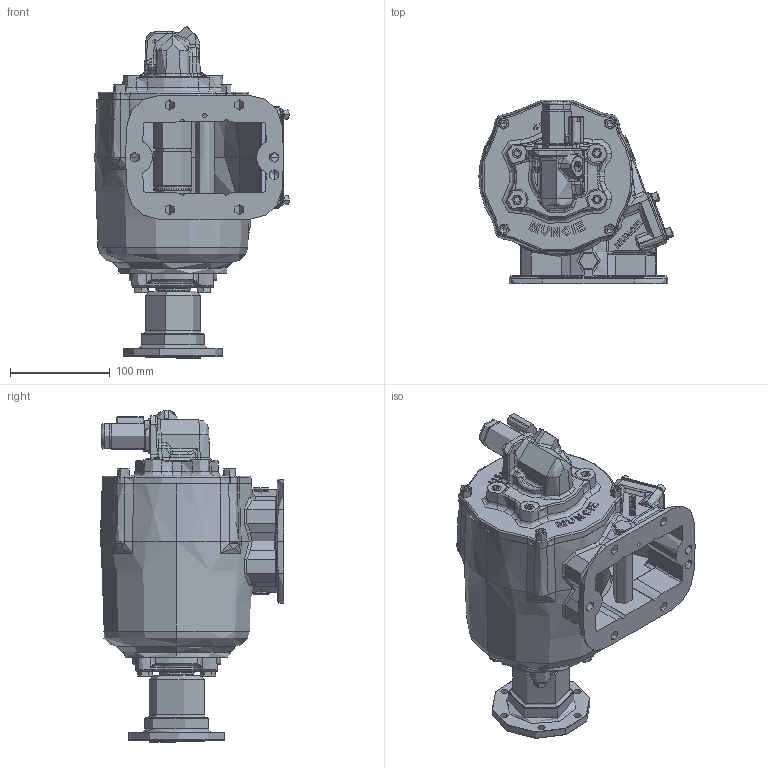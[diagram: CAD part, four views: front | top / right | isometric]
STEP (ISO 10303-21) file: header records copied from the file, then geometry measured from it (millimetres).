
FILE_DESCRIPTION (( 'STEP AP203' ), '1' );
FILE_NAME ('CS6S-XXXXX-S12X.STEP', '2023-05-25T17:36:25', ( '' ), ( '' ), 'SwSTEP 2.0', 'SolidWorks 2021', '' );
FILE_SCHEMA (( 'CONFIG_CONTROL_DESIGN' ));
Length unit declared in the file: inch
Products named in the file (17): 19T35237; 15T41683; 16T41119; 01t37073a; 15T41597; 19T38266; 15TA5220_Config1; 07T37071; 25T21684-1; 06T37372_06T37372; 35T40860a; 14T37378; 19T41756; 19T41118; CS6S-XXXXX-S12X; 19T40859; 21T20092
Assembly tree (30 placements, depth 3):
  CS6S-XXXXX-S12X
    01t37073a
    16T41119
    19T41118  x4
    19T35237  x4
    15T41597
    35T40860a
    25T21684-1  x5
    07T37071
    19T40859  x2
    06T37372_06T37372
    21T20092
    14T37378
    19T38266
    15TA5220_Config1
      15T41683
    19T41756  x4
Bounding box: 194.82 x 183.98 x 332.83 mm (x, y, z)
Topology: 28 solids, 32 shells, 2970 faces, 7497 edges, 4646 vertices
Faces by surface type: bspline 845, plane 810, cylinder 711, cone 374, torus 226, sphere 4
Entity records: 206850 total; most frequent: CARTESIAN_POINT 147211, ORIENTED_EDGE 13466, DIRECTION 9602, EDGE_CURVE 6735, VERTEX_POINT 4228, AXIS2_PLACEMENT_3D 3731, EDGE_LOOP 2885, ADVANCED_FACE 2661
